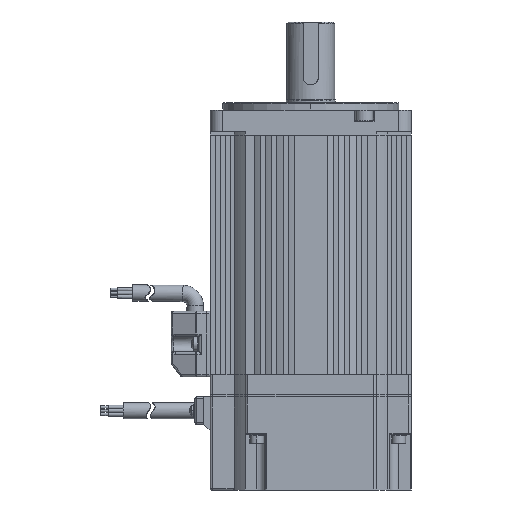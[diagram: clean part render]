
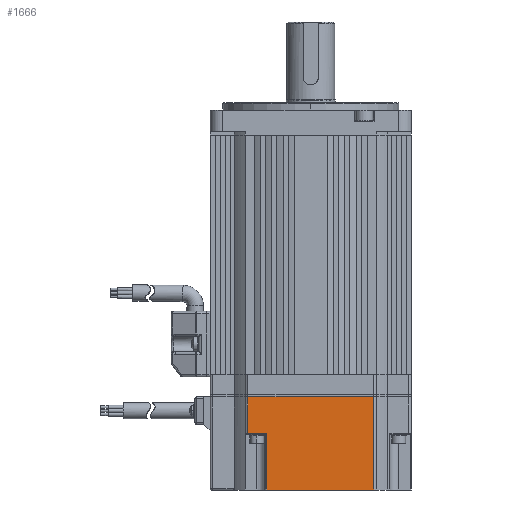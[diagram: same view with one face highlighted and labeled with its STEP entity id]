
A CAD part, left-side view. The second image highlights one B-rep face of the part: STEP entity #1666.
In plain terms, the highlighted planar face has unit normal (-1, 0, 0) as drawn and (1, 0, 0) by its records, which use the part's own axes.
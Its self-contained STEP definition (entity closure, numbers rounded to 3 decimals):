
#106 = CARTESIAN_POINT ( 'NONE',  ( 40., -25., 37. ) ) ;
#1666 = ADVANCED_FACE ( 'NONE', ( #35919 ), #15143, .F. ) ;
#2101 = DIRECTION ( 'NONE',  ( 0., 0., 1. ) ) ;
#2910 = VECTOR ( 'NONE', #2101, 1000. ) ;
#4418 = ORIENTED_EDGE ( 'NONE', *, *, #22220, .T. ) ;
#5286 = LINE ( 'NONE', #39547, #22530 ) ;
#8566 = DIRECTION ( 'NONE',  ( 0., 0., 1. ) ) ;
#8739 = VERTEX_POINT ( 'NONE', #25277 ) ;
#8853 = CARTESIAN_POINT ( 'NONE',  ( 40., 17.422, 14.5 ) ) ;
#8941 = VERTEX_POINT ( 'NONE', #19395 ) ;
#10153 = ORIENTED_EDGE ( 'NONE', *, *, #18316, .T. ) ;
#10200 = DIRECTION ( 'NONE',  ( 0., 0., -1. ) ) ;
#11123 = EDGE_CURVE ( 'NONE', #12183, #8739, #19694, .T. ) ;
#12183 = VERTEX_POINT ( 'NONE', #26619 ) ;
#15141 = EDGE_LOOP ( 'NONE', ( #34775, #29636, #10153, #20865, #4418, #21224 ) ) ;
#15143 = PLANE ( 'NONE',  #21761 ) ;
#16928 = VECTOR ( 'NONE', #30545, 1000. ) ;
#18045 = DIRECTION ( 'NONE',  ( 0., 0., 1. ) ) ;
#18316 = EDGE_CURVE ( 'NONE', #8739, #37801, #39558, .T. ) ;
#19395 = CARTESIAN_POINT ( 'NONE',  ( 40., -25., 37. ) ) ;
#19694 = LINE ( 'NONE', #8853, #38023 ) ;
#20865 = ORIENTED_EDGE ( 'NONE', *, *, #39185, .F. ) ;
#21224 = ORIENTED_EDGE ( 'NONE', *, *, #42833, .T. ) ;
#21761 = AXIS2_PLACEMENT_3D ( 'NONE', #28683, #40527, #18045 ) ;
#22220 = EDGE_CURVE ( 'NONE', #8941, #22632, #34999, .T. ) ;
#22530 = VECTOR ( 'NONE', #32779, 1000. ) ;
#22632 = VERTEX_POINT ( 'NONE', #36653 ) ;
#25277 = CARTESIAN_POINT ( 'NONE',  ( 40., 17.422, 14.5 ) ) ;
#26325 = CARTESIAN_POINT ( 'NONE',  ( 40., 17.422, 37. ) ) ;
#26619 = CARTESIAN_POINT ( 'NONE',  ( 40., 25., 14.5 ) ) ;
#27309 = CARTESIAN_POINT ( 'NONE',  ( 40., 17.422, 37. ) ) ;
#28683 = CARTESIAN_POINT ( 'NONE',  ( 40., 26., 37. ) ) ;
#29442 = DIRECTION ( 'NONE',  ( 0., -1., 0. ) ) ;
#29636 = ORIENTED_EDGE ( 'NONE', *, *, #11123, .T. ) ;
#30545 = DIRECTION ( 'NONE',  ( 0., 1., 0. ) ) ;
#31541 = VECTOR ( 'NONE', #8566, 1000. ) ;
#32779 = DIRECTION ( 'NONE',  ( 0., 1., 0. ) ) ;
#34775 = ORIENTED_EDGE ( 'NONE', *, *, #41379, .T. ) ;
#34999 = LINE ( 'NONE', #106, #43114 ) ;
#35485 = VERTEX_POINT ( 'NONE', #36536 ) ;
#35919 = FACE_OUTER_BOUND ( 'NONE', #15141, .T. ) ;
#36536 = CARTESIAN_POINT ( 'NONE',  ( 40., 25., 0. ) ) ;
#36653 = CARTESIAN_POINT ( 'NONE',  ( 40., -25., 0. ) ) ;
#37801 = VERTEX_POINT ( 'NONE', #27309 ) ;
#38023 = VECTOR ( 'NONE', #29442, 1000. ) ;
#39185 = EDGE_CURVE ( 'NONE', #8941, #37801, #5286, .T. ) ;
#39421 = CARTESIAN_POINT ( 'NONE',  ( 40., 25., 37. ) ) ;
#39547 = CARTESIAN_POINT ( 'NONE',  ( 40., 26., 37. ) ) ;
#39558 = LINE ( 'NONE', #26325, #2910 ) ;
#40527 = DIRECTION ( 'NONE',  ( -1., 0., 0. ) ) ;
#40705 = LINE ( 'NONE', #39421, #31541 ) ;
#40954 = CARTESIAN_POINT ( 'NONE',  ( 40., 26., 0. ) ) ;
#41379 = EDGE_CURVE ( 'NONE', #35485, #12183, #40705, .T. ) ;
#42833 = EDGE_CURVE ( 'NONE', #22632, #35485, #44445, .T. ) ;
#43114 = VECTOR ( 'NONE', #10200, 1000. ) ;
#44445 = LINE ( 'NONE', #40954, #16928 ) ;
